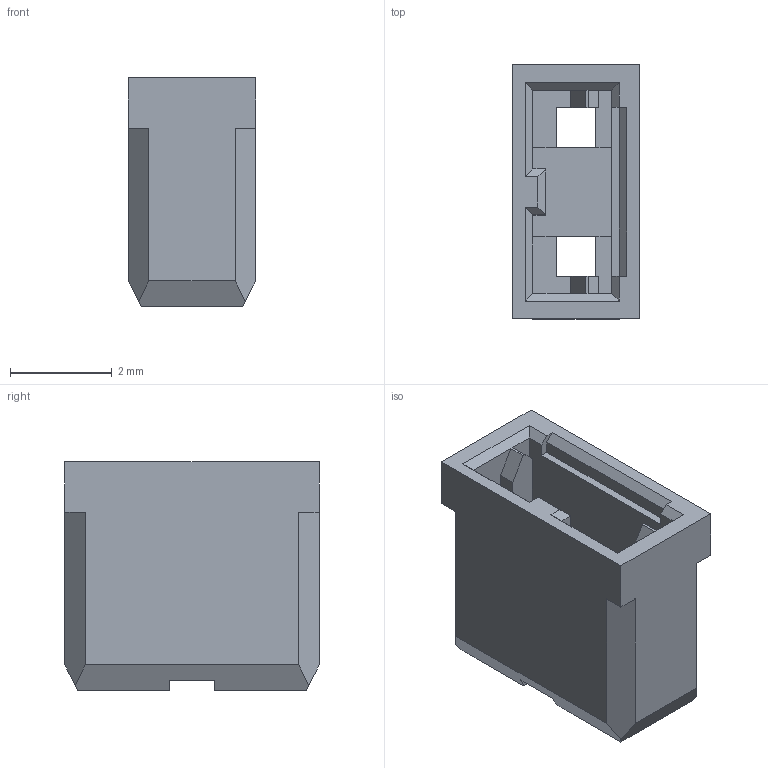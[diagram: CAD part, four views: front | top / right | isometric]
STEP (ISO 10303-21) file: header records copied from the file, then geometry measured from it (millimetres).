
FILE_DESCRIPTION (( 'STEP AP214' ), '1' );
FILE_NAME ('20_8261_027_90X.STEP', '2023-07-28T02:49:18', ( '' ), ( '' ), 'SwSTEP 2.0', 'SolidWorks 2021', '' );
FILE_SCHEMA (( 'AUTOMOTIVE_DESIGN' ));
Length unit declared in the file: millimetre
Products named in the file (1): 20_8261_027_90X
Bounding box: 2.5 x 5 x 4.5 mm (x, y, z)
Volume: 32.4 mm3; surface area: 135.7 mm2
Topology: 1 solids, 1 shells, 91 faces, 252 edges, 162 vertices
Faces by surface type: plane 91
Entity records: 2858 total; most frequent: CARTESIAN_POINT 520, ORIENTED_EDGE 504, DIRECTION 426, EDGE_CURVE 252, LINE 242, VECTOR 242, VERTEX_POINT 162, EDGE_LOOP 94
